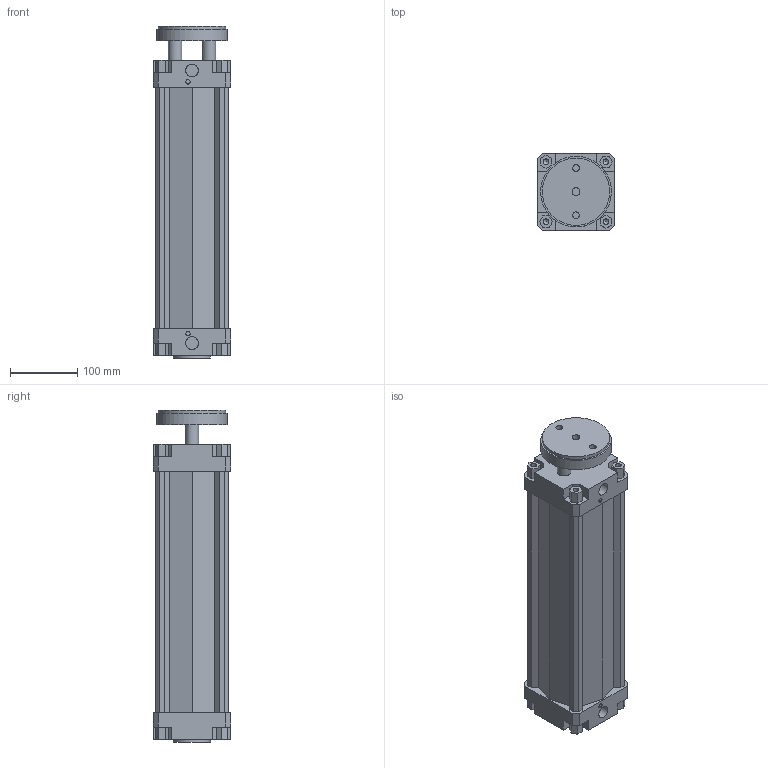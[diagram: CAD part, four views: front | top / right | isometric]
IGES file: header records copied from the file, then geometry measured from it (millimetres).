
Global section: file name: 132#_100_0300_01; native system: Autodesk Inventor 2014; preprocessor: unknown; author: A. Manieri; date: 20161006.163735; units: millimetre
Bounding box: 115 x 115 x 493 mm (x, y, z)
Volume: 2711672.9 mm3; surface area: 481397.5 mm2
Topology: 2 solids, 2 shells, 180 faces, 491 edges, 335 vertices
Faces by surface type: bspline 180
